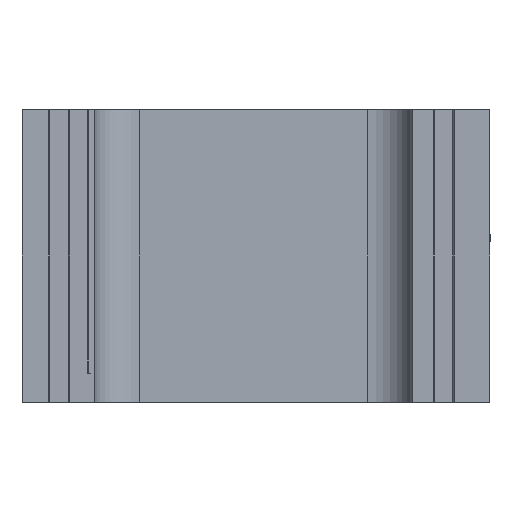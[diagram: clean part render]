
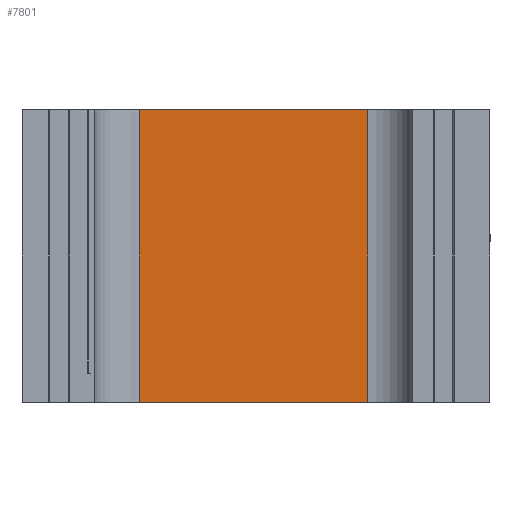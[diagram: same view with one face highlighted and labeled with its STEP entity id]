
A CAD part, left-side view. The second image highlights one B-rep face of the part: STEP entity #7801.
In plain terms, the highlighted planar face has unit normal (-1, 0, 0).
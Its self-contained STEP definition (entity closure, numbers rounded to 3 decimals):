
#32 = PLANE('',#33);
#33 = AXIS2_PLACEMENT_3D('',#34,#35,#36);
#34 = CARTESIAN_POINT('',(-226.162,-160.281,100.));
#35 = DIRECTION('',(0.,0.,1.));
#36 = DIRECTION('',(1.,0.,-0.));
#586 = VERTEX_POINT('',#587);
#587 = CARTESIAN_POINT('',(129.188,119.96,100.));
#606 = CYLINDRICAL_SURFACE('',#607,15.35);
#607 = AXIS2_PLACEMENT_3D('',#608,#609,#610);
#608 = CARTESIAN_POINT('',(113.838,119.96,-0.2));
#609 = DIRECTION('',(-0.,-0.,-1.));
#610 = DIRECTION('',(0.,-1.,0.));
#618 = EDGE_CURVE('',#586,#619,#621,.T.);
#619 = VERTEX_POINT('',#620);
#620 = CARTESIAN_POINT('',(129.188,41.74,100.));
#621 = SURFACE_CURVE('',#622,(#626,#633),.PCURVE_S1.);
#622 = LINE('',#623,#624);
#623 = CARTESIAN_POINT('',(129.188,-59.271,100.));
#624 = VECTOR('',#625,1.);
#625 = DIRECTION('',(0.,-1.,0.));
#626 = PCURVE('',#32,#627);
#627 = DEFINITIONAL_REPRESENTATION('',(#628),#632);
#628 = LINE('',#629,#630);
#629 = CARTESIAN_POINT('',(355.35,101.011));
#630 = VECTOR('',#631,1.);
#631 = DIRECTION('',(0.,-1.));
#632 = ( GEOMETRIC_REPRESENTATION_CONTEXT(2) 
PARAMETRIC_REPRESENTATION_CONTEXT() REPRESENTATION_CONTEXT('2D SPACE',''
  ) );
#633 = PCURVE('',#634,#639);
#634 = PLANE('',#635);
#635 = AXIS2_PLACEMENT_3D('',#636,#637,#638);
#636 = CARTESIAN_POINT('',(129.188,41.74,-0.2));
#637 = DIRECTION('',(-1.,0.,0.));
#638 = DIRECTION('',(0.,1.,0.));
#639 = DEFINITIONAL_REPRESENTATION('',(#640),#644);
#640 = LINE('',#641,#642);
#641 = CARTESIAN_POINT('',(-101.011,-100.2));
#642 = VECTOR('',#643,1.);
#643 = DIRECTION('',(-1.,0.));
#644 = ( GEOMETRIC_REPRESENTATION_CONTEXT(2) 
PARAMETRIC_REPRESENTATION_CONTEXT() REPRESENTATION_CONTEXT('2D SPACE',''
  ) );
#667 = CYLINDRICAL_SURFACE('',#668,15.35);
#668 = AXIS2_PLACEMENT_3D('',#669,#670,#671);
#669 = CARTESIAN_POINT('',(113.838,41.74,-0.2));
#670 = DIRECTION('',(-0.,0.,-1.));
#671 = DIRECTION('',(-0.,-1.,0.));
#3612 = PLANE('',#3613);
#3613 = AXIS2_PLACEMENT_3D('',#3614,#3615,#3616);
#3614 = CARTESIAN_POINT('',(-226.162,-160.281,0.));
#3615 = DIRECTION('',(0.,0.,1.));
#3616 = DIRECTION('',(1.,0.,-0.));
#7752 = VERTEX_POINT('',#7753);
#7753 = CARTESIAN_POINT('',(129.188,41.74,0.));
#7779 = EDGE_CURVE('',#7752,#619,#7780,.T.);
#7780 = SURFACE_CURVE('',#7781,(#7785,#7792),.PCURVE_S1.);
#7781 = LINE('',#7782,#7783);
#7782 = CARTESIAN_POINT('',(129.188,41.74,-0.2));
#7783 = VECTOR('',#7784,1.);
#7784 = DIRECTION('',(0.,0.,1.));
#7785 = PCURVE('',#667,#7786);
#7786 = DEFINITIONAL_REPRESENTATION('',(#7787),#7791);
#7787 = LINE('',#7788,#7789);
#7788 = CARTESIAN_POINT('',(4.712,0.));
#7789 = VECTOR('',#7790,1.);
#7790 = DIRECTION('',(0.,-1.));
#7791 = ( GEOMETRIC_REPRESENTATION_CONTEXT(2) 
PARAMETRIC_REPRESENTATION_CONTEXT() REPRESENTATION_CONTEXT('2D SPACE',''
  ) );
#7792 = PCURVE('',#634,#7793);
#7793 = DEFINITIONAL_REPRESENTATION('',(#7794),#7798);
#7794 = LINE('',#7795,#7796);
#7795 = CARTESIAN_POINT('',(0.,0.));
#7796 = VECTOR('',#7797,1.);
#7797 = DIRECTION('',(0.,-1.));
#7798 = ( GEOMETRIC_REPRESENTATION_CONTEXT(2) 
PARAMETRIC_REPRESENTATION_CONTEXT() REPRESENTATION_CONTEXT('2D SPACE',''
  ) );
#7801 = ADVANCED_FACE('',(#7802),#634,.T.);
#7802 = FACE_BOUND('',#7803,.T.);
#7803 = EDGE_LOOP('',(#7804,#7827,#7828,#7829));
#7804 = ORIENTED_EDGE('',*,*,#7805,.T.);
#7805 = EDGE_CURVE('',#7806,#7752,#7808,.T.);
#7806 = VERTEX_POINT('',#7807);
#7807 = CARTESIAN_POINT('',(129.188,119.96,0.));
#7808 = SURFACE_CURVE('',#7809,(#7813,#7820),.PCURVE_S1.);
#7809 = LINE('',#7810,#7811);
#7810 = CARTESIAN_POINT('',(129.188,-59.271,0.));
#7811 = VECTOR('',#7812,1.);
#7812 = DIRECTION('',(0.,-1.,0.));
#7813 = PCURVE('',#634,#7814);
#7814 = DEFINITIONAL_REPRESENTATION('',(#7815),#7819);
#7815 = LINE('',#7816,#7817);
#7816 = CARTESIAN_POINT('',(-101.011,-0.2));
#7817 = VECTOR('',#7818,1.);
#7818 = DIRECTION('',(-1.,0.));
#7819 = ( GEOMETRIC_REPRESENTATION_CONTEXT(2) 
PARAMETRIC_REPRESENTATION_CONTEXT() REPRESENTATION_CONTEXT('2D SPACE',''
  ) );
#7820 = PCURVE('',#3612,#7821);
#7821 = DEFINITIONAL_REPRESENTATION('',(#7822),#7826);
#7822 = LINE('',#7823,#7824);
#7823 = CARTESIAN_POINT('',(355.35,101.011));
#7824 = VECTOR('',#7825,1.);
#7825 = DIRECTION('',(0.,-1.));
#7826 = ( GEOMETRIC_REPRESENTATION_CONTEXT(2) 
PARAMETRIC_REPRESENTATION_CONTEXT() REPRESENTATION_CONTEXT('2D SPACE',''
  ) );
#7827 = ORIENTED_EDGE('',*,*,#7779,.T.);
#7828 = ORIENTED_EDGE('',*,*,#618,.F.);
#7829 = ORIENTED_EDGE('',*,*,#7830,.F.);
#7830 = EDGE_CURVE('',#7806,#586,#7831,.T.);
#7831 = SURFACE_CURVE('',#7832,(#7836,#7843),.PCURVE_S1.);
#7832 = LINE('',#7833,#7834);
#7833 = CARTESIAN_POINT('',(129.188,119.96,-0.2));
#7834 = VECTOR('',#7835,1.);
#7835 = DIRECTION('',(0.,0.,1.));
#7836 = PCURVE('',#634,#7837);
#7837 = DEFINITIONAL_REPRESENTATION('',(#7838),#7842);
#7838 = LINE('',#7839,#7840);
#7839 = CARTESIAN_POINT('',(78.22,0.));
#7840 = VECTOR('',#7841,1.);
#7841 = DIRECTION('',(0.,-1.));
#7842 = ( GEOMETRIC_REPRESENTATION_CONTEXT(2) 
PARAMETRIC_REPRESENTATION_CONTEXT() REPRESENTATION_CONTEXT('2D SPACE',''
  ) );
#7843 = PCURVE('',#606,#7844);
#7844 = DEFINITIONAL_REPRESENTATION('',(#7845),#7849);
#7845 = LINE('',#7846,#7847);
#7846 = CARTESIAN_POINT('',(-1.571,0.));
#7847 = VECTOR('',#7848,1.);
#7848 = DIRECTION('',(-0.,-1.));
#7849 = ( GEOMETRIC_REPRESENTATION_CONTEXT(2) 
PARAMETRIC_REPRESENTATION_CONTEXT() REPRESENTATION_CONTEXT('2D SPACE',''
  ) );
